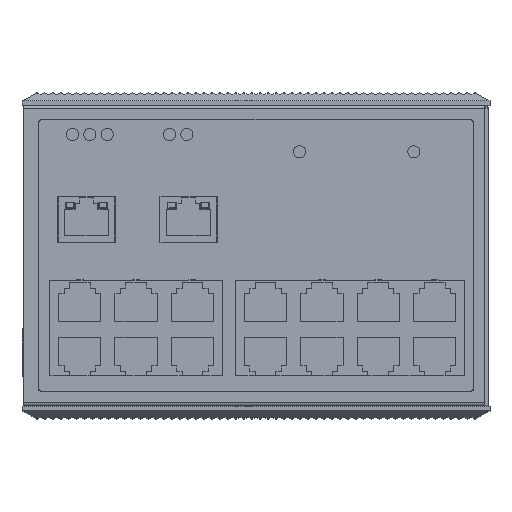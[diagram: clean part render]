
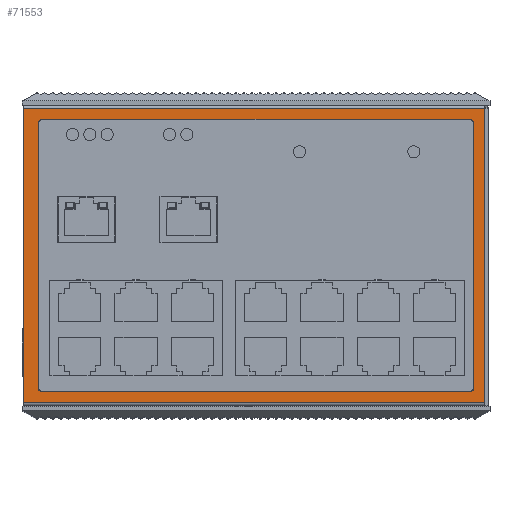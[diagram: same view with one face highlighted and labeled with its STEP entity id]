
A CAD part, top view. The second image highlights one B-rep face of the part: STEP entity #71553.
In plain terms, the highlighted planar face has unit normal (0, 0, 1).
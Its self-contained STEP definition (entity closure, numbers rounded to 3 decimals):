
#600=DIRECTION('',(0.,-1.,0.));
#601=VECTOR('',#600,84.8);
#602=CARTESIAN_POINT('',(66.7,84.85,70.86));
#603=LINE('',#602,#601);
#685=DIRECTION('',(-1.,0.,0.));
#686=VECTOR('',#685,133.);
#687=CARTESIAN_POINT('',(66.7,0.05,70.86));
#688=LINE('',#687,#686);
#2178=DIRECTION('',(0.,1.,0.));
#2179=VECTOR('',#2178,84.8);
#2180=CARTESIAN_POINT('',(-66.3,0.05,70.86));
#2181=LINE('',#2180,#2179);
#23430=DIRECTION('',(1.,0.,0.));
#23431=VECTOR('',#23430,133.);
#23432=CARTESIAN_POINT('',(-66.3,84.85,70.86));
#23433=LINE('',#23432,#23431);
#23434=CARTESIAN_POINT('',(62.5,4.15,70.86));
#23435=DIRECTION('',(0.,0.,-1.));
#23436=DIRECTION('',(1.,0.,0.));
#23437=AXIS2_PLACEMENT_3D('',#23434,#23435,#23436);
#23439=DIRECTION('',(0.,-1.,0.));
#23440=VECTOR('',#23439,76.6);
#23441=CARTESIAN_POINT('',(63.5,80.75,70.86));
#23442=LINE('',#23441,#23440);
#23443=CARTESIAN_POINT('',(62.5,80.75,70.86));
#23444=DIRECTION('',(0.,0.,-1.));
#23445=DIRECTION('',(0.,1.,0.));
#23446=AXIS2_PLACEMENT_3D('',#23443,#23444,#23445);
#23448=DIRECTION('',(1.,0.,0.));
#23449=VECTOR('',#23448,123.6);
#23450=CARTESIAN_POINT('',(-61.1,81.75,70.86));
#23451=LINE('',#23450,#23449);
#23452=CARTESIAN_POINT('',(-61.1,80.75,70.86));
#23453=DIRECTION('',(0.,0.,-1.));
#23454=DIRECTION('',(-1.,0.,0.));
#23455=AXIS2_PLACEMENT_3D('',#23452,#23453,#23454);
#23457=DIRECTION('',(0.,1.,0.));
#23458=VECTOR('',#23457,76.6);
#23459=CARTESIAN_POINT('',(-62.1,4.15,70.86));
#23460=LINE('',#23459,#23458);
#23461=CARTESIAN_POINT('',(-61.1,4.15,70.86));
#23462=DIRECTION('',(0.,0.,-1.));
#23463=DIRECTION('',(0.,-1.,0.));
#23464=AXIS2_PLACEMENT_3D('',#23461,#23462,#23463);
#23466=DIRECTION('',(-1.,0.,0.));
#23467=VECTOR('',#23466,123.6);
#23468=CARTESIAN_POINT('',(62.5,3.15,70.86));
#23469=LINE('',#23468,#23467);
#32222=CARTESIAN_POINT('',(-66.3,84.85,70.86));
#32223=VERTEX_POINT('',#32222);
#32224=CARTESIAN_POINT('',(66.7,84.85,70.86));
#32225=VERTEX_POINT('',#32224);
#32298=CARTESIAN_POINT('',(-66.3,0.05,70.86));
#32299=VERTEX_POINT('',#32298);
#32300=CARTESIAN_POINT('',(66.7,0.05,70.86));
#32301=VERTEX_POINT('',#32300);
#32366=CARTESIAN_POINT('',(63.5,4.15,70.86));
#32367=CARTESIAN_POINT('',(62.5,3.15,70.86));
#32368=VERTEX_POINT('',#32366);
#32369=VERTEX_POINT('',#32367);
#32398=CARTESIAN_POINT('',(-61.1,3.15,70.86));
#32399=VERTEX_POINT('',#32398);
#32400=CARTESIAN_POINT('',(63.5,80.75,70.86));
#32401=VERTEX_POINT('',#32400);
#32426=CARTESIAN_POINT('',(-62.1,4.15,70.86));
#32427=VERTEX_POINT('',#32426);
#32428=CARTESIAN_POINT('',(62.5,81.75,70.86));
#32429=VERTEX_POINT('',#32428);
#32476=CARTESIAN_POINT('',(-62.1,80.75,70.86));
#32477=VERTEX_POINT('',#32476);
#32480=CARTESIAN_POINT('',(-61.1,81.75,70.86));
#32481=VERTEX_POINT('',#32480);
#71524=CARTESIAN_POINT('',(66.7,84.85,70.86));
#71525=DIRECTION('',(0.,0.,-1.));
#71526=DIRECTION('',(1.,0.,0.));
#71527=AXIS2_PLACEMENT_3D('',#71524,#71525,#71526);
#71528=PLANE('',#71527);
#71529=ORIENTED_EDGE('',*,*,#71518,.T.);
#71530=ORIENTED_EDGE('',*,*,#39745,.T.);
#71531=ORIENTED_EDGE('',*,*,#39854,.T.);
#71532=ORIENTED_EDGE('',*,*,#39868,.T.);
#71533=EDGE_LOOP('',(#71529,#71530,#71531,#71532));
#71534=FACE_OUTER_BOUND('',#71533,.F.);
#71536=ORIENTED_EDGE('',*,*,#71535,.F.);
#71538=ORIENTED_EDGE('',*,*,#71537,.F.);
#71540=ORIENTED_EDGE('',*,*,#71539,.F.);
#71542=ORIENTED_EDGE('',*,*,#71541,.F.);
#71544=ORIENTED_EDGE('',*,*,#71543,.F.);
#71546=ORIENTED_EDGE('',*,*,#71545,.F.);
#71548=ORIENTED_EDGE('',*,*,#71547,.F.);
#71550=ORIENTED_EDGE('',*,*,#71549,.F.);
#71551=EDGE_LOOP('',(#71536,#71538,#71540,#71542,#71544,#71546,#71548,#71550));
#71552=FACE_BOUND('',#71551,.F.);
#71553=ADVANCED_FACE('',(#71534,#71552),#71528,.F.);
#23438=CIRCLE('',#23437,1.);
#23447=CIRCLE('',#23446,1.);
#23456=CIRCLE('',#23455,1.);
#23465=CIRCLE('',#23464,1.);
#39745=EDGE_CURVE('',#32225,#32301,#603,.T.);
#39854=EDGE_CURVE('',#32301,#32299,#688,.T.);
#39868=EDGE_CURVE('',#32299,#32223,#2181,.T.);
#71518=EDGE_CURVE('',#32223,#32225,#23433,.T.);
#71535=EDGE_CURVE('',#32368,#32369,#23438,.T.);
#71537=EDGE_CURVE('',#32401,#32368,#23442,.T.);
#71539=EDGE_CURVE('',#32429,#32401,#23447,.T.);
#71541=EDGE_CURVE('',#32481,#32429,#23451,.T.);
#71543=EDGE_CURVE('',#32477,#32481,#23456,.T.);
#71545=EDGE_CURVE('',#32427,#32477,#23460,.T.);
#71547=EDGE_CURVE('',#32399,#32427,#23465,.T.);
#71549=EDGE_CURVE('',#32369,#32399,#23469,.T.);
